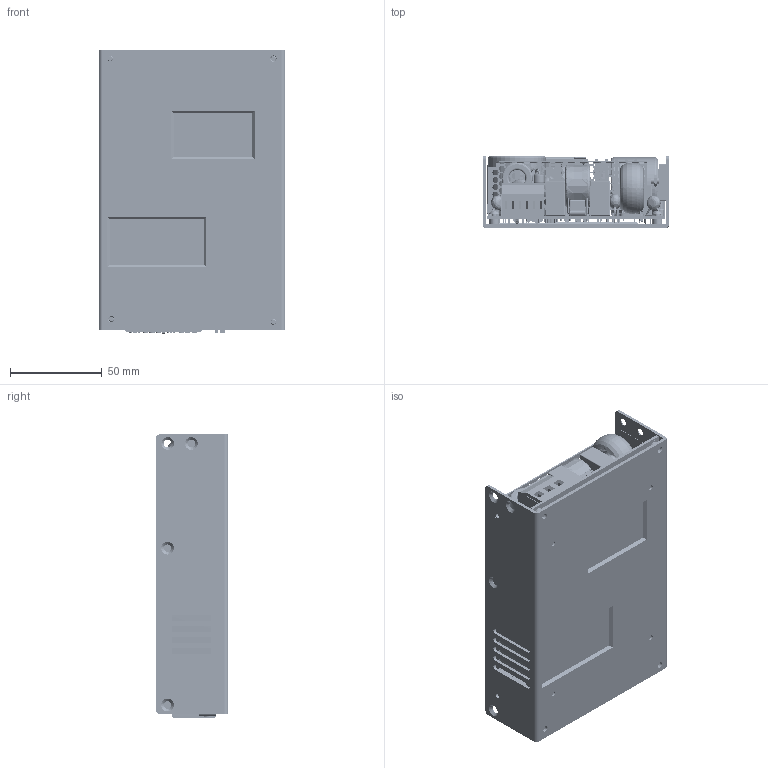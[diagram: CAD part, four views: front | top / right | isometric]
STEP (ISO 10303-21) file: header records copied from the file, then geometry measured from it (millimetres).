
FILE_DESCRIPTION((''),'2;1');
FILE_NAME('CNS65X-MU_SW0001','2016-07-29T',('AlfredoJr.Tolentino'),(''),'CREO PARAMETRIC BY PTC INC, 2015380','CREO PARAMETRIC BY PTC INC, 2015380','');
FILE_SCHEMA(('CONFIG_CONTROL_DESIGN'));
Products named in the file (1): CNS65X-MU_SW0001
Bounding box: 101.72 x 39.35 x 154.3 mm (x, y, z)
Volume: 241434.5 mm3; surface area: 246638.7 mm2
Topology: 18 solids, 32 shells, 13327 faces, 36803 edges, 23702 vertices
Faces by surface type: plane 6656, cylinder 5511, bspline 457, torus 361, cone 232, sphere 96, extrusion 14
Entity records: 670496 total; most frequent: CARTESIAN_POINT 123102, ORIENTED_EDGE 73558, DIRECTION 72644, PRESENTATION_STYLE_ASSIGNMENT 47817, STYLED_ITEM 36812, CURVE_STYLE 36793, EDGE_CURVE 36779, AXIS2_PLACEMENT_3D 24773
